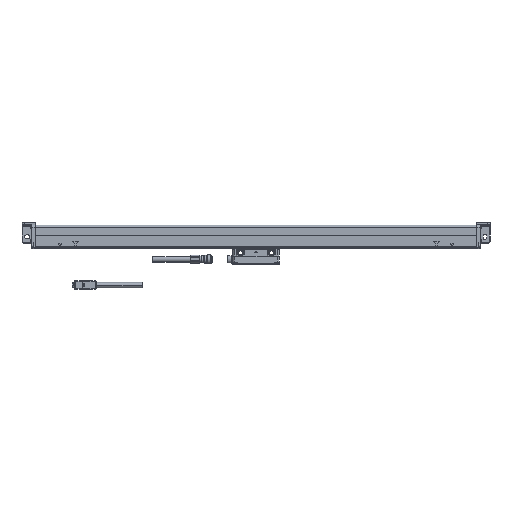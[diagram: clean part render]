
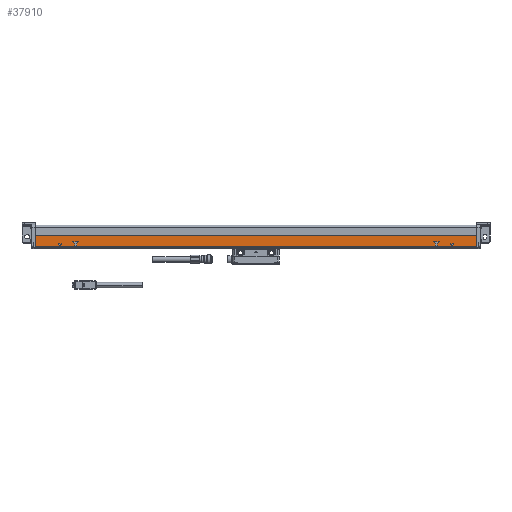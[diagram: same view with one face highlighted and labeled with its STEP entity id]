
A CAD part, top view. The second image highlights one B-rep face of the part: STEP entity #37910.
In plain terms, the highlighted planar face has unit normal (0, 0, 1).
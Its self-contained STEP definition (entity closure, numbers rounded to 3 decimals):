
#35500=CARTESIAN_POINT('',(2682.,82.01,34.29));
#35510=VERTEX_POINT('',#35500);
#35560=CARTESIAN_POINT('',(2144.,82.01,34.29));
#35570=DIRECTION('',(1.,0.,0.));
#35580=VECTOR('',#35570,1.);
#35590=LINE('',#35560,#35580);
#35600=CARTESIAN_POINT('',(1826.,82.01,34.29));
#35610=VERTEX_POINT('',#35600);
#35620=EDGE_CURVE('',#35610,#35510,#35590,.T.);
#36090=CARTESIAN_POINT('',(2144.,62.01,34.29));
#36100=DIRECTION('',(-0.,0.,1.));
#36110=DIRECTION('',(0.,-1.,0.));
#36120=AXIS2_PLACEMENT_3D('',#36090,#36100,#36110);
#36130=PLANE('',#36120);
#36140=CARTESIAN_POINT('',(2144.,62.01,34.29));
#36150=DIRECTION('',(1.,0.,0.));
#36160=VECTOR('',#36150,1.);
#36170=LINE('',#36140,#36160);
#36180=CARTESIAN_POINT('',(1826.,62.01,34.29));
#36190=VERTEX_POINT('',#36180);
#36200=CARTESIAN_POINT('',(2682.,62.01,34.29));
#36210=VERTEX_POINT('',#36200);
#36220=EDGE_CURVE('',#36190,#36210,#36170,.T.);
#36230=ORIENTED_EDGE('',*,*,#36220,.T.);
#36240=CARTESIAN_POINT('',(1826.,90.75,34.29));
#36250=DIRECTION('',(0.,-1.,0.));
#36260=VECTOR('',#36250,1.);
#36270=LINE('',#36240,#36260);
#36280=EDGE_CURVE('',#35610,#36190,#36270,.T.);
#36290=ORIENTED_EDGE('',*,*,#36280,.T.);
#36300=ORIENTED_EDGE('',*,*,#35620,.F.);
#36310=CARTESIAN_POINT('',(2682.,90.75,34.29));
#36320=DIRECTION('',(0.,1.,0.));
#36330=VECTOR('',#36320,1.);
#36340=LINE('',#36310,#36330);
#36350=EDGE_CURVE('',#36210,#35510,#36340,.T.);
#36360=ORIENTED_EDGE('',*,*,#36350,.T.);
#36370=EDGE_LOOP('',(#36360,#36300,#36290,#36230));
#36380=FACE_OUTER_BOUND('',#36370,.T.);
#36390=CARTESIAN_POINT('',(2650.535,90.75,34.29));
#36400=DIRECTION('',(0.5,0.866,0.));
#36410=VECTOR('',#36400,1.);
#36420=LINE('',#36390,#36410);
#36430=CARTESIAN_POINT('',(2634.,62.11,34.29));
#36440=VERTEX_POINT('',#36430);
#36450=CARTESIAN_POINT('',(2637.464,68.11,34.29));
#36460=VERTEX_POINT('',#36450);
#36470=EDGE_CURVE('',#36440,#36460,#36420,.T.);
#36480=ORIENTED_EDGE('',*,*,#36470,.F.);
#36490=CARTESIAN_POINT('',(2877.,68.11,34.29));
#36500=DIRECTION('',(-1.,0.,0.));
#36510=VECTOR('',#36500,1.);
#36520=LINE('',#36490,#36510);
#36530=CARTESIAN_POINT('',(2635.732,68.11,34.29));
#36540=VERTEX_POINT('',#36530);
#36550=EDGE_CURVE('',#36460,#36540,#36520,.T.);
#36560=ORIENTED_EDGE('',*,*,#36550,.F.);
#36570=CARTESIAN_POINT('',(2648.803,90.75,34.29));
#36580=DIRECTION('',(-0.5,-0.866,-0.));
#36590=VECTOR('',#36580,1.);
#36600=LINE('',#36570,#36590);
#36610=CARTESIAN_POINT('',(2634.,65.11,34.29));
#36620=VERTEX_POINT('',#36610);
#36630=EDGE_CURVE('',#36540,#36620,#36600,.T.);
#36640=ORIENTED_EDGE('',*,*,#36630,.F.);
#36650=CARTESIAN_POINT('',(2619.197,90.75,34.29));
#36660=DIRECTION('',(-0.5,0.866,0.));
#36670=VECTOR('',#36660,1.);
#36680=LINE('',#36650,#36670);
#36690=CARTESIAN_POINT('',(2632.268,68.11,34.29));
#36700=VERTEX_POINT('',#36690);
#36710=EDGE_CURVE('',#36620,#36700,#36680,.T.);
#36720=ORIENTED_EDGE('',*,*,#36710,.F.);
#36730=CARTESIAN_POINT('',(2877.,68.11,34.29));
#36740=DIRECTION('',(-1.,0.,0.));
#36750=VECTOR('',#36740,1.);
#36760=LINE('',#36730,#36750);
#36770=CARTESIAN_POINT('',(2630.536,68.11,34.29));
#36780=VERTEX_POINT('',#36770);
#36790=EDGE_CURVE('',#36700,#36780,#36760,.T.);
#36800=ORIENTED_EDGE('',*,*,#36790,.F.);
#36810=CARTESIAN_POINT('',(2617.465,90.75,34.29));
#36820=DIRECTION('',(0.5,-0.866,0.));
#36830=VECTOR('',#36820,1.);
#36840=LINE('',#36810,#36830);
#36850=EDGE_CURVE('',#36780,#36440,#36840,.T.);
#36860=ORIENTED_EDGE('',*,*,#36850,.F.);
#36870=EDGE_LOOP('',(#36860,#36800,#36720,#36640,#36560,#36480));
#36880=FACE_BOUND('',#36870,.T.);
#36890=CARTESIAN_POINT('',(642.,71.11,34.29));
#36900=DIRECTION('',(-1.,0.,0.));
#36910=VECTOR('',#36900,1.);
#36920=LINE('',#36890,#36910);
#36930=CARTESIAN_POINT('',(2609.196,71.11,34.29));
#36940=VERTEX_POINT('',#36930);
#36950=CARTESIAN_POINT('',(2598.804,71.11,34.29));
#36960=VERTEX_POINT('',#36950);
#36970=EDGE_CURVE('',#36940,#36960,#36920,.T.);
#36980=ORIENTED_EDGE('',*,*,#36970,.F.);
#36990=CARTESIAN_POINT('',(2587.465,90.75,34.29));
#37000=DIRECTION('',(0.5,-0.866,0.));
#37010=VECTOR('',#37000,1.);
#37020=LINE('',#36990,#37010);
#37030=CARTESIAN_POINT('',(2604.,62.11,34.29));
#37040=VERTEX_POINT('',#37030);
#37050=EDGE_CURVE('',#36960,#37040,#37020,.T.);
#37060=ORIENTED_EDGE('',*,*,#37050,.F.);
#37070=CARTESIAN_POINT('',(2620.535,90.75,34.29));
#37080=DIRECTION('',(0.5,0.866,0.));
#37090=VECTOR('',#37080,1.);
#37100=LINE('',#37070,#37090);
#37110=EDGE_CURVE('',#37040,#36940,#37100,.T.);
#37120=ORIENTED_EDGE('',*,*,#37110,.F.);
#37130=EDGE_LOOP('',(#37120,#37060,#36980));
#37140=FACE_BOUND('',#37130,.T.);
#37150=CARTESIAN_POINT('',(1887.465,90.75,34.29));
#37160=DIRECTION('',(0.5,-0.866,0.));
#37170=VECTOR('',#37160,1.);
#37180=LINE('',#37150,#37170);
#37190=CARTESIAN_POINT('',(1898.804,71.11,34.29));
#37200=VERTEX_POINT('',#37190);
#37210=CARTESIAN_POINT('',(1904.,62.11,34.29));
#37220=VERTEX_POINT('',#37210);
#37230=EDGE_CURVE('',#37200,#37220,#37180,.T.);
#37240=ORIENTED_EDGE('',*,*,#37230,.F.);
#37250=CARTESIAN_POINT('',(1920.535,90.75,34.29));
#37260=DIRECTION('',(0.5,0.866,0.));
#37270=VECTOR('',#37260,1.);
#37280=LINE('',#37250,#37270);
#37290=CARTESIAN_POINT('',(1909.196,71.11,34.29));
#37300=VERTEX_POINT('',#37290);
#37310=EDGE_CURVE('',#37220,#37300,#37280,.T.);
#37320=ORIENTED_EDGE('',*,*,#37310,.F.);
#37330=CARTESIAN_POINT('',(2442.,71.11,34.29));
#37340=DIRECTION('',(-1.,0.,0.));
#37350=VECTOR('',#37340,1.);
#37360=LINE('',#37330,#37350);
#37370=EDGE_CURVE('',#37300,#37200,#37360,.T.);
#37380=ORIENTED_EDGE('',*,*,#37370,.F.);
#37390=EDGE_LOOP('',(#37380,#37320,#37240));
#37400=FACE_BOUND('',#37390,.T.);
#37410=CARTESIAN_POINT('',(1890.535,90.75,34.29));
#37420=DIRECTION('',(0.5,0.866,0.));
#37430=VECTOR('',#37420,1.);
#37440=LINE('',#37410,#37430);
#37450=CARTESIAN_POINT('',(1874.,62.11,34.29));
#37460=VERTEX_POINT('',#37450);
#37470=CARTESIAN_POINT('',(1877.464,68.11,34.29));
#37480=VERTEX_POINT('',#37470);
#37490=EDGE_CURVE('',#37460,#37480,#37440,.T.);
#37500=ORIENTED_EDGE('',*,*,#37490,.F.);
#37510=CARTESIAN_POINT('',(2477.,68.11,34.29));
#37520=DIRECTION('',(-1.,0.,-0.));
#37530=VECTOR('',#37520,1.);
#37540=LINE('',#37510,#37530);
#37550=CARTESIAN_POINT('',(1875.732,68.11,34.29));
#37560=VERTEX_POINT('',#37550);
#37570=EDGE_CURVE('',#37480,#37560,#37540,.T.);
#37580=ORIENTED_EDGE('',*,*,#37570,.F.);
#37590=CARTESIAN_POINT('',(1888.803,90.75,34.29));
#37600=DIRECTION('',(-0.5,-0.866,-0.));
#37610=VECTOR('',#37600,1.);
#37620=LINE('',#37590,#37610);
#37630=CARTESIAN_POINT('',(1874.,65.11,34.29));
#37640=VERTEX_POINT('',#37630);
#37650=EDGE_CURVE('',#37560,#37640,#37620,.T.);
#37660=ORIENTED_EDGE('',*,*,#37650,.F.);
#37670=CARTESIAN_POINT('',(1859.197,90.75,34.29));
#37680=DIRECTION('',(-0.5,0.866,0.));
#37690=VECTOR('',#37680,1.);
#37700=LINE('',#37670,#37690);
#37710=CARTESIAN_POINT('',(1872.268,68.11,34.29));
#37720=VERTEX_POINT('',#37710);
#37730=EDGE_CURVE('',#37640,#37720,#37700,.T.);
#37740=ORIENTED_EDGE('',*,*,#37730,.F.);
#37750=CARTESIAN_POINT('',(2477.,68.11,34.29));
#37760=DIRECTION('',(-1.,0.,-0.));
#37770=VECTOR('',#37760,1.);
#37780=LINE('',#37750,#37770);
#37790=CARTESIAN_POINT('',(1870.536,68.11,34.29));
#37800=VERTEX_POINT('',#37790);
#37810=EDGE_CURVE('',#37720,#37800,#37780,.T.);
#37820=ORIENTED_EDGE('',*,*,#37810,.F.);
#37830=CARTESIAN_POINT('',(1857.465,90.75,34.29));
#37840=DIRECTION('',(0.5,-0.866,0.));
#37850=VECTOR('',#37840,1.);
#37860=LINE('',#37830,#37850);
#37870=EDGE_CURVE('',#37800,#37460,#37860,.T.);
#37880=ORIENTED_EDGE('',*,*,#37870,.F.);
#37890=EDGE_LOOP('',(#37880,#37820,#37740,#37660,#37580,#37500));
#37900=FACE_BOUND('',#37890,.T.);
#37910=ADVANCED_FACE('',(#36380,#36880,#37140,#37400,#37900),#36130,.T.)
;
